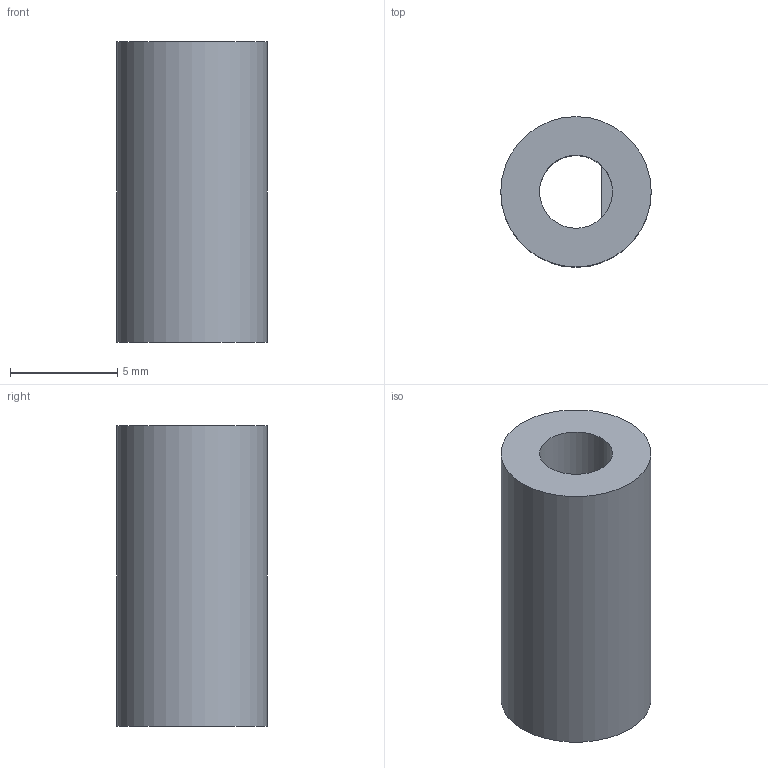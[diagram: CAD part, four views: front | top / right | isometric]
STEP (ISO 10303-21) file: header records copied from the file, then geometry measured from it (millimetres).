
FILE_DESCRIPTION(/* description */ ('Unknown'),/* implementation_level */ '2;1');
FILE_NAME(/* name */ 'shaft-adapter',/* time_stamp */ '2024-05-08T11:10:42-05:00',/* author */ ('Unknown'),/* organization */ ('Unknown'),/* preprocessor_version */ 'ST-DEVELOPER v18.102',/* originating_system */ 'Solid Edge',/* authorisation */ 'Unknown');
FILE_SCHEMA (('AUTOMOTIVE_DESIGN {1 0 10303 214 3 1 1}'));
Length unit declared in the file: millimetre
Products named in the file (1): shaft-adapter
Bounding box: 7 x 7 x 14 mm (x, y, z)
Volume: 419.1 mm3; surface area: 515.5 mm2
Topology: 1 solids, 1 shells, 6 faces, 12 edges, 8 vertices
Faces by surface type: plane 4, cylinder 2
Full cylindrical faces by diameter (mm): 3.4 x1, 7 x1
Entity records: 176 total; most frequent: DIRECTION 28, CARTESIAN_POINT 23, ORIENTED_EDGE 18, AXIS2_PLACEMENT_3D 12, EDGE_LOOP 10, FACE_BOUND 10, EDGE_CURVE 9, VERTEX_POINT 7
